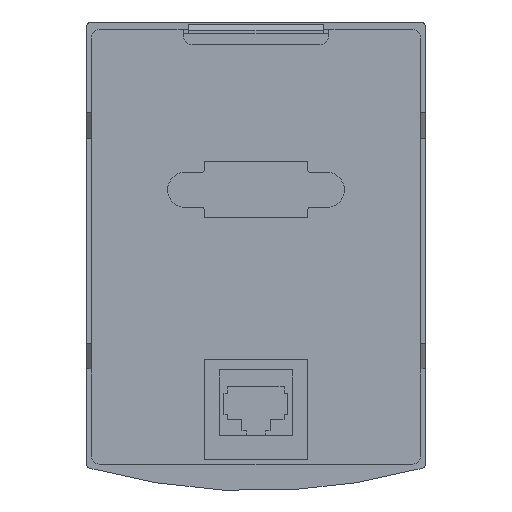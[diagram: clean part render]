
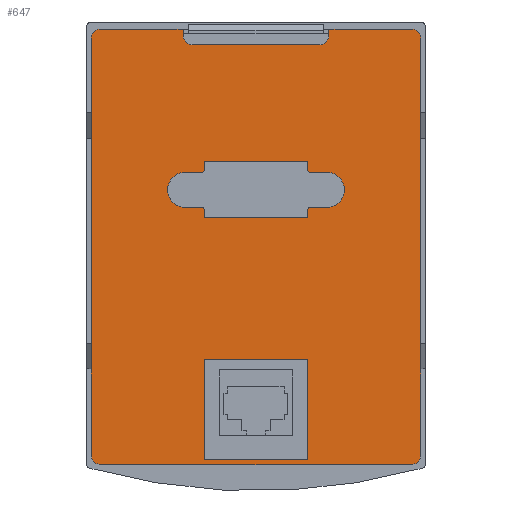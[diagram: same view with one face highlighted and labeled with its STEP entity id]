
A CAD part, left-side view. The second image highlights one B-rep face of the part: STEP entity #647.
In plain terms, the highlighted planar face has unit normal (-1, 0, 0).
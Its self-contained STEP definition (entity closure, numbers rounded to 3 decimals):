
#647=ADVANCED_FACE('',(#2210,#2212,#2214),#2216,.T.);
#2210=FACE_BOUND('',#2211,.T.);
#2211=EDGE_LOOP('',(#3373,#3374,#3375,#3376,#3377,#3378,#3379,#3380,#3381,#3382,
#3383,#3384,#3385,#3386));
#2212=FACE_BOUND('',#2213,.T.);
#2213=EDGE_LOOP('',(#3387,#3388,#3389,#3390,#3391,#3392,#3393,#3394,#3395,#3396,
#3397,#3398,#3399,#3400,#3401,#3402));
#2214=FACE_BOUND('',#2215,.T.);
#2215=EDGE_LOOP('',(#3403,#3404,#3405,#3406));
#2216=PLANE('',#2217);
#2217=AXIS2_PLACEMENT_3D('',#2218,#2219,#2220);
#2218=CARTESIAN_POINT('',(-13.6,0.,0.));
#2219=DIRECTION('',(-1.,0.,0.));
#2220=DIRECTION('',(0.,-1.,0.));
#3373=ORIENTED_EDGE('',*,*,#4203,.T.);
#3374=ORIENTED_EDGE('',*,*,#4112,.T.);
#3375=ORIENTED_EDGE('',*,*,#4105,.F.);
#3376=ORIENTED_EDGE('',*,*,#4190,.T.);
#3377=ORIENTED_EDGE('',*,*,#4181,.F.);
#3378=ORIENTED_EDGE('',*,*,#4167,.T.);
#3379=ORIENTED_EDGE('',*,*,#4161,.F.);
#3380=ORIENTED_EDGE('',*,*,#4146,.T.);
#3381=ORIENTED_EDGE('',*,*,#4137,.F.);
#3382=ORIENTED_EDGE('',*,*,#4110,.T.);
#3383=ORIENTED_EDGE('',*,*,#4204,.T.);
#3384=ORIENTED_EDGE('',*,*,#4205,.T.);
#3385=ORIENTED_EDGE('',*,*,#4206,.T.);
#3386=ORIENTED_EDGE('',*,*,#4207,.T.);
#3387=ORIENTED_EDGE('',*,*,#4208,.T.);
#3388=ORIENTED_EDGE('',*,*,#4209,.T.);
#3389=ORIENTED_EDGE('',*,*,#4210,.T.);
#3390=ORIENTED_EDGE('',*,*,#4211,.T.);
#3391=ORIENTED_EDGE('',*,*,#4212,.T.);
#3392=ORIENTED_EDGE('',*,*,#4213,.T.);
#3393=ORIENTED_EDGE('',*,*,#4214,.T.);
#3394=ORIENTED_EDGE('',*,*,#4215,.T.);
#3395=ORIENTED_EDGE('',*,*,#4216,.T.);
#3396=ORIENTED_EDGE('',*,*,#4217,.T.);
#3397=ORIENTED_EDGE('',*,*,#4218,.T.);
#3398=ORIENTED_EDGE('',*,*,#4219,.T.);
#3399=ORIENTED_EDGE('',*,*,#4220,.T.);
#3400=ORIENTED_EDGE('',*,*,#4221,.T.);
#3401=ORIENTED_EDGE('',*,*,#4222,.T.);
#3402=ORIENTED_EDGE('',*,*,#4223,.T.);
#3403=ORIENTED_EDGE('',*,*,#4224,.T.);
#3404=ORIENTED_EDGE('',*,*,#4225,.T.);
#3405=ORIENTED_EDGE('',*,*,#4226,.T.);
#3406=ORIENTED_EDGE('',*,*,#4227,.T.);
#4105=EDGE_CURVE('',#4670,#4668,#4672,.F.);
#4110=EDGE_CURVE('',#4682,#4680,#4683,.T.);
#4112=EDGE_CURVE('',#4685,#4668,#4686,.T.);
#4137=EDGE_CURVE('',#4682,#4732,#4734,.F.);
#4146=EDGE_CURVE('',#4750,#4732,#4751,.T.);
#4161=EDGE_CURVE('',#4750,#4770,#4772,.F.);
#4167=EDGE_CURVE('',#4782,#4770,#4783,.T.);
#4181=EDGE_CURVE('',#4782,#4800,#4802,.F.);
#4190=EDGE_CURVE('',#4670,#4800,#4818,.T.);
#4203=EDGE_CURVE('',#4836,#4685,#4837,.F.);
#4204=EDGE_CURVE('',#4680,#4838,#4839,.F.);
#4205=EDGE_CURVE('',#4838,#4840,#4841,.F.);
#4206=EDGE_CURVE('',#4840,#4842,#4843,.F.);
#4207=EDGE_CURVE('',#4842,#4836,#4844,.F.);
#4208=EDGE_CURVE('',#4845,#4846,#4847,.F.);
#4209=EDGE_CURVE('',#4846,#4848,#4849,.F.);
#4210=EDGE_CURVE('',#4848,#4850,#4851,.F.);
#4211=EDGE_CURVE('',#4850,#4852,#4853,.F.);
#4212=EDGE_CURVE('',#4852,#4854,#4855,.F.);
#4213=EDGE_CURVE('',#4854,#4856,#4857,.F.);
#4214=EDGE_CURVE('',#4856,#4858,#4859,.F.);
#4215=EDGE_CURVE('',#4858,#4860,#4861,.F.);
#4216=EDGE_CURVE('',#4860,#4862,#4863,.F.);
#4217=EDGE_CURVE('',#4862,#4864,#4865,.F.);
#4218=EDGE_CURVE('',#4864,#4866,#4867,.F.);
#4219=EDGE_CURVE('',#4866,#4868,#4869,.F.);
#4220=EDGE_CURVE('',#4868,#4870,#4871,.F.);
#4221=EDGE_CURVE('',#4870,#4872,#4873,.F.);
#4222=EDGE_CURVE('',#4872,#4874,#4875,.F.);
#4223=EDGE_CURVE('',#4874,#4845,#4876,.F.);
#4224=EDGE_CURVE('',#4877,#4878,#4879,.F.);
#4225=EDGE_CURVE('',#4878,#4880,#4881,.F.);
#4226=EDGE_CURVE('',#4880,#4882,#4883,.F.);
#4227=EDGE_CURVE('',#4882,#4877,#4884,.F.);
#4668=VERTEX_POINT('',#5709);
#4670=VERTEX_POINT('',#5713);
#4672=CIRCLE('',#5717,2.);
#4680=VERTEX_POINT('',#5734);
#4682=VERTEX_POINT('',#5738);
#4683=LINE('',#5739,#5740);
#4685=VERTEX_POINT('',#5745);
#4686=LINE('',#5746,#5747);
#4732=VERTEX_POINT('',#5844);
#4734=CIRCLE('',#5848,2.);
#4750=VERTEX_POINT('',#5883);
#4751=LINE('',#5884,#5885);
#4770=VERTEX_POINT('',#5931);
#4772=CIRCLE('',#5935,2.);
#4782=VERTEX_POINT('',#5958);
#4783=LINE('',#5959,#5960);
#4800=VERTEX_POINT('',#6002);
#4802=CIRCLE('',#6006,2.);
#4818=LINE('',#6041,#6042);
#4836=VERTEX_POINT('',#6085);
#4837=LINE('',#6086,#6087);
#4838=VERTEX_POINT('',#6089);
#4839=LINE('',#6090,#6091);
#4840=VERTEX_POINT('',#6093);
#4841=CIRCLE('',#6094,2.);
#4842=VERTEX_POINT('',#6098);
#4843=LINE('',#6099,#6100);
#4844=CIRCLE('',#6102,2.);
#4845=VERTEX_POINT('',#6106);
#4846=VERTEX_POINT('',#6107);
#4847=CIRCLE('',#6108,0.5);
#4848=VERTEX_POINT('',#6112);
#4849=LINE('',#6113,#6114);
#4850=VERTEX_POINT('',#6116);
#4851=CIRCLE('',#6117,3.75);
#4852=VERTEX_POINT('',#6121);
#4853=LINE('',#6122,#6123);
#4854=VERTEX_POINT('',#6125);
#4855=CIRCLE('',#6126,0.5);
#4856=VERTEX_POINT('',#6130);
#4857=LINE('',#6131,#6132);
#4858=VERTEX_POINT('',#6134);
#4859=LINE('',#6135,#6136);
#4860=VERTEX_POINT('',#6138);
#4861=LINE('',#6139,#6140);
#4862=VERTEX_POINT('',#6142);
#4863=CIRCLE('',#6143,0.5);
#4864=VERTEX_POINT('',#6147);
#4865=LINE('',#6148,#6149);
#4866=VERTEX_POINT('',#6151);
#4867=CIRCLE('',#6152,3.75);
#4868=VERTEX_POINT('',#6156);
#4869=LINE('',#6157,#6158);
#4870=VERTEX_POINT('',#6160);
#4871=CIRCLE('',#6161,0.5);
#4872=VERTEX_POINT('',#6165);
#4873=LINE('',#6166,#6167);
#4874=VERTEX_POINT('',#6169);
#4875=LINE('',#6170,#6171);
#4876=LINE('',#6173,#6174);
#4877=VERTEX_POINT('',#6176);
#4878=VERTEX_POINT('',#6177);
#4879=LINE('',#6178,#6179);
#4880=VERTEX_POINT('',#6181);
#4881=LINE('',#6182,#6183);
#4882=VERTEX_POINT('',#6185);
#4883=LINE('',#6186,#6187);
#4884=LINE('',#6189,#6190);
#5709=CARTESIAN_POINT('',(-13.6,33.,48.3));
#5713=CARTESIAN_POINT('',(-13.6,35.,46.3));
#5717=AXIS2_PLACEMENT_3D('',#5718,#5719,#5720);
#5718=CARTESIAN_POINT('',(-13.6,33.,46.3));
#5719=DIRECTION('',(-1.,0.,0.));
#5720=DIRECTION('',(0.,0.,1.));
#5734=CARTESIAN_POINT('',(-13.6,-15.5,48.3));
#5738=CARTESIAN_POINT('',(-13.6,-33.,48.3));
#5739=CARTESIAN_POINT('',(-13.6,-33.,48.3));
#5740=VECTOR('',#5741,1.);
#5741=DIRECTION('',(0.,1.,0.));
#5745=CARTESIAN_POINT('',(-13.6,15.5,48.3));
#5746=CARTESIAN_POINT('',(-13.6,15.5,48.3));
#5747=VECTOR('',#5748,1.);
#5748=DIRECTION('',(0.,1.,0.));
#5844=CARTESIAN_POINT('',(-13.6,-35.,46.3));
#5848=AXIS2_PLACEMENT_3D('',#5849,#5850,#5851);
#5849=CARTESIAN_POINT('',(-13.6,-33.,46.3));
#5850=DIRECTION('',(-1.,0.,0.));
#5851=DIRECTION('',(0.,-1.,0.));
#5883=CARTESIAN_POINT('',(-13.6,-35.,-42.2));
#5884=CARTESIAN_POINT('',(-13.6,-35.,-42.2));
#5885=VECTOR('',#5886,1.);
#5886=DIRECTION('',(0.,0.,1.));
#5931=CARTESIAN_POINT('',(-13.6,-33.,-44.2));
#5935=AXIS2_PLACEMENT_3D('',#5936,#5937,#5938);
#5936=CARTESIAN_POINT('',(-13.6,-33.,-42.2));
#5937=DIRECTION('',(-1.,0.,0.));
#5938=DIRECTION('',(0.,0.,-1.));
#5958=CARTESIAN_POINT('',(-13.6,33.,-44.2));
#5959=CARTESIAN_POINT('',(-13.6,33.,-44.2));
#5960=VECTOR('',#5961,1.);
#5961=DIRECTION('',(0.,-1.,0.));
#6002=CARTESIAN_POINT('',(-13.6,35.,-42.2));
#6006=AXIS2_PLACEMENT_3D('',#6007,#6008,#6009);
#6007=CARTESIAN_POINT('',(-13.6,33.,-42.2));
#6008=DIRECTION('',(-1.,0.,0.));
#6009=DIRECTION('',(0.,1.,0.));
#6041=CARTESIAN_POINT('',(-13.6,35.,46.3));
#6042=VECTOR('',#6043,1.);
#6043=DIRECTION('',(0.,0.,-1.));
#6085=CARTESIAN_POINT('',(-13.6,15.5,47.));
#6086=CARTESIAN_POINT('',(-13.6,15.5,48.3));
#6087=VECTOR('',#6088,1.);
#6088=DIRECTION('',(0.,0.,-1.));
#6089=CARTESIAN_POINT('',(-13.6,-15.5,47.));
#6090=CARTESIAN_POINT('',(-13.6,-15.5,47.));
#6091=VECTOR('',#6092,1.);
#6092=DIRECTION('',(0.,0.,1.));
#6093=CARTESIAN_POINT('',(-13.6,-13.5,45.));
#6094=AXIS2_PLACEMENT_3D('',#6095,#6096,#6097);
#6095=CARTESIAN_POINT('',(-13.6,-13.5,47.));
#6096=DIRECTION('',(-1.,0.,0.));
#6097=DIRECTION('',(0.,0.,-1.));
#6098=CARTESIAN_POINT('',(-13.6,13.5,45.));
#6099=CARTESIAN_POINT('',(-13.6,13.5,45.));
#6100=VECTOR('',#6101,1.);
#6101=DIRECTION('',(0.,-1.,0.));
#6102=AXIS2_PLACEMENT_3D('',#6103,#6104,#6105);
#6103=CARTESIAN_POINT('',(-13.6,13.5,47.));
#6104=DIRECTION('',(-1.,0.,0.));
#6105=DIRECTION('',(0.,1.,0.));
#6106=CARTESIAN_POINT('',(-13.6,11.,9.9));
#6107=CARTESIAN_POINT('',(-13.6,11.5,10.4));
#6108=AXIS2_PLACEMENT_3D('',#6109,#6110,#6111);
#6109=CARTESIAN_POINT('',(-13.6,11.5,9.9));
#6110=DIRECTION('',(1.,0.,0.));
#6111=DIRECTION('',(0.,0.,1.));
#6112=CARTESIAN_POINT('',(-13.6,15.,10.4));
#6113=CARTESIAN_POINT('',(-13.6,15.,10.4));
#6114=VECTOR('',#6115,1.);
#6115=DIRECTION('',(0.,-1.,0.));
#6116=CARTESIAN_POINT('',(-13.6,15.,17.9));
#6117=AXIS2_PLACEMENT_3D('',#6118,#6119,#6120);
#6118=CARTESIAN_POINT('',(-13.6,15.,14.15));
#6119=DIRECTION('',(-1.,0.,0.));
#6120=DIRECTION('',(0.,0.,1.));
#6121=CARTESIAN_POINT('',(-13.6,11.5,17.9));
#6122=CARTESIAN_POINT('',(-13.6,11.5,17.9));
#6123=VECTOR('',#6124,1.);
#6124=DIRECTION('',(0.,1.,0.));
#6125=CARTESIAN_POINT('',(-13.6,11.,18.4));
#6126=AXIS2_PLACEMENT_3D('',#6127,#6128,#6129);
#6127=CARTESIAN_POINT('',(-13.6,11.5,18.4));
#6128=DIRECTION('',(1.,0.,0.));
#6129=DIRECTION('',(0.,-1.,0.));
#6130=CARTESIAN_POINT('',(-13.6,11.,20.1));
#6131=CARTESIAN_POINT('',(-13.6,11.,20.1));
#6132=VECTOR('',#6133,1.);
#6133=DIRECTION('',(0.,0.,-1.));
#6134=CARTESIAN_POINT('',(-13.6,-11.,20.1));
#6135=CARTESIAN_POINT('',(-13.6,-11.,20.1));
#6136=VECTOR('',#6137,1.);
#6137=DIRECTION('',(0.,1.,0.));
#6138=CARTESIAN_POINT('',(-13.6,-11.,18.4));
#6139=CARTESIAN_POINT('',(-13.6,-11.,18.4));
#6140=VECTOR('',#6141,1.);
#6141=DIRECTION('',(0.,0.,1.));
#6142=CARTESIAN_POINT('',(-13.6,-11.5,17.9));
#6143=AXIS2_PLACEMENT_3D('',#6144,#6145,#6146);
#6144=CARTESIAN_POINT('',(-13.6,-11.5,18.4));
#6145=DIRECTION('',(1.,0.,0.));
#6146=DIRECTION('',(0.,0.,-1.));
#6147=CARTESIAN_POINT('',(-13.6,-15.,17.9));
#6148=CARTESIAN_POINT('',(-13.6,-15.,17.9));
#6149=VECTOR('',#6150,1.);
#6150=DIRECTION('',(0.,1.,0.));
#6151=CARTESIAN_POINT('',(-13.6,-15.,10.4));
#6152=AXIS2_PLACEMENT_3D('',#6153,#6154,#6155);
#6153=CARTESIAN_POINT('',(-13.6,-15.,14.15));
#6154=DIRECTION('',(-1.,0.,0.));
#6155=DIRECTION('',(0.,0.,-1.));
#6156=CARTESIAN_POINT('',(-13.6,-11.5,10.4));
#6157=CARTESIAN_POINT('',(-13.6,-11.5,10.4));
#6158=VECTOR('',#6159,1.);
#6159=DIRECTION('',(0.,-1.,0.));
#6160=CARTESIAN_POINT('',(-13.6,-11.,9.9));
#6161=AXIS2_PLACEMENT_3D('',#6162,#6163,#6164);
#6162=CARTESIAN_POINT('',(-13.6,-11.5,9.9));
#6163=DIRECTION('',(1.,0.,0.));
#6164=DIRECTION('',(0.,1.,0.));
#6165=CARTESIAN_POINT('',(-13.6,-11.,8.2));
#6166=CARTESIAN_POINT('',(-13.6,-11.,8.2));
#6167=VECTOR('',#6168,1.);
#6168=DIRECTION('',(0.,0.,1.));
#6169=CARTESIAN_POINT('',(-13.6,11.,8.2));
#6170=CARTESIAN_POINT('',(-13.6,11.,8.2));
#6171=VECTOR('',#6172,1.);
#6172=DIRECTION('',(0.,-1.,0.));
#6173=CARTESIAN_POINT('',(-13.6,11.,9.9));
#6174=VECTOR('',#6175,1.);
#6175=DIRECTION('',(0.,0.,-1.));
#6176=CARTESIAN_POINT('',(-13.6,11.,-21.8));
#6177=CARTESIAN_POINT('',(-13.6,-11.,-21.8));
#6178=CARTESIAN_POINT('',(-13.6,-11.,-21.8));
#6179=VECTOR('',#6180,1.);
#6180=DIRECTION('',(0.,1.,0.));
#6181=CARTESIAN_POINT('',(-13.6,-11.,-43.1));
#6182=CARTESIAN_POINT('',(-13.6,-11.,-43.1));
#6183=VECTOR('',#6184,1.);
#6184=DIRECTION('',(0.,0.,1.));
#6185=CARTESIAN_POINT('',(-13.6,11.,-43.1));
#6186=CARTESIAN_POINT('',(-13.6,11.,-43.1));
#6187=VECTOR('',#6188,1.);
#6188=DIRECTION('',(0.,-1.,0.));
#6189=CARTESIAN_POINT('',(-13.6,11.,-21.8));
#6190=VECTOR('',#6191,1.);
#6191=DIRECTION('',(0.,0.,-1.));
